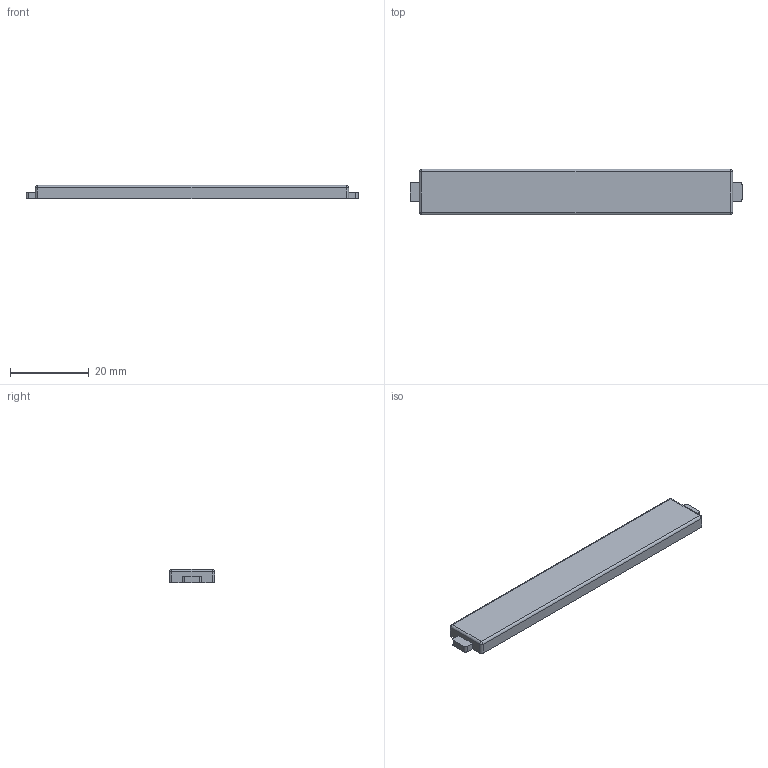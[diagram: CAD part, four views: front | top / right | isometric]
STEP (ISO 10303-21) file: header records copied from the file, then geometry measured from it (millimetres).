
FILE_DESCRIPTION(('Open CASCADE Model'),'2;1');
FILE_NAME('Open CASCADE Shape Model','1970-01-01T00:00:00',('Author'),( 'Open CASCADE'),'Open CASCADE STEP processor 7.8','Open CASCADE 7.8' ,'Unknown');
FILE_SCHEMA(('AUTOMOTIVE_DESIGN { 1 0 10303 214 1 1 1 1 }'));
Length unit declared in the file: millimetre
Products named in the file (2): Open CASCADE STEP translator 7.8 44; G complete grip insert
Assembly tree (1 placements, depth 2):
  Open CASCADE STEP translator 7.8 44
    G complete grip insert
Bounding box: 84.5 x 11.56 x 3.36 mm (x, y, z)
Volume: 3120 mm3; surface area: 2466.4 mm2
Topology: 1 solids, 1 shells, 30 faces, 76 edges, 44 vertices
Faces by surface type: plane 14, cylinder 12, sphere 4
Entity records: 1818 total; most frequent: CARTESIAN_POINT 338, DIRECTION 273, LINE 152, VECTOR 152, ORIENTED_EDGE 144, PCURVE 144, DEFINITIONAL_REPRESENTATION 144, EDGE_CURVE 72
